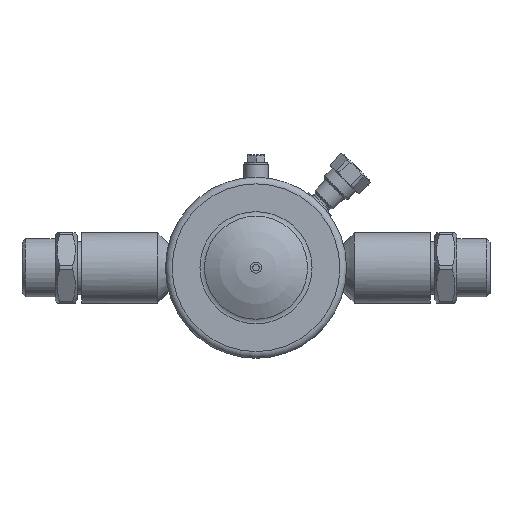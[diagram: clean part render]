
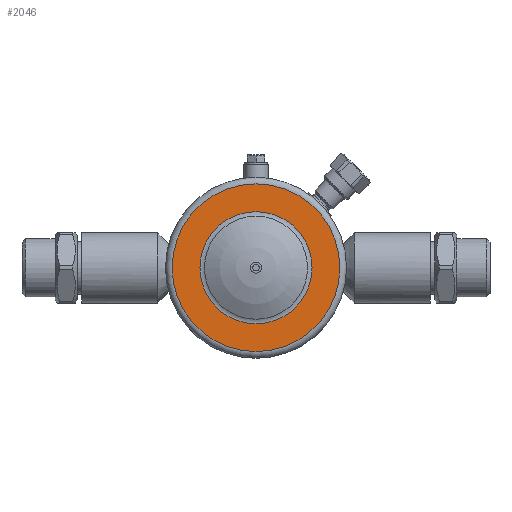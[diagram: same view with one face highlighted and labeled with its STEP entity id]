
A CAD part, top view. The second image highlights one B-rep face of the part: STEP entity #2046.
In plain terms, the highlighted planar face has unit normal (0, 0, 1) as drawn and (1, 0, 0) by its records, which use the part's own axes.
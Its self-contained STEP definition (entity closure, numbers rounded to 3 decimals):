
#2046=ADVANCED_FACE('',(#4076,#4078),#4080,.T.);
#4076=FACE_BOUND('',#4077,.T.);
#4077=EDGE_LOOP('',(#5403,#5404));
#4078=FACE_BOUND('',#4079,.T.);
#4079=EDGE_LOOP('',(#5405,#5406));
#4080=PLANE('',#4081);
#4081=AXIS2_PLACEMENT_3D('',#4082,#4083,#4084);
#4082=CARTESIAN_POINT('',(8.,0.,0.));
#4083=DIRECTION('',(1.,0.,0.));
#4084=DIRECTION('',(0.,0.,1.));
#5403=ORIENTED_EDGE('',*,*,#6063,.F.);
#5404=ORIENTED_EDGE('',*,*,#6062,.F.);
#5405=ORIENTED_EDGE('',*,*,#6066,.T.);
#5406=ORIENTED_EDGE('',*,*,#6067,.T.);
#6062=EDGE_CURVE('',#6657,#6658,#6659,.T.);
#6063=EDGE_CURVE('',#6658,#6657,#6660,.T.);
#6066=EDGE_CURVE('',#6665,#6666,#6667,.T.);
#6067=EDGE_CURVE('',#6666,#6665,#6668,.T.);
#6657=VERTEX_POINT('',#8908);
#6658=VERTEX_POINT('',#8909);
#6659=CIRCLE('',#8910,38.);
#6660=CIRCLE('',#8914,38.);
#6665=VERTEX_POINT('',#8928);
#6666=VERTEX_POINT('',#8929);
#6667=CIRCLE('',#8930,25.405);
#6668=CIRCLE('',#8934,25.405);
#8908=CARTESIAN_POINT('',(8.,0.,38.));
#8909=CARTESIAN_POINT('',(8.,0.,-38.));
#8910=AXIS2_PLACEMENT_3D('',#8911,#8912,#8913);
#8911=CARTESIAN_POINT('',(8.,0.,0.));
#8912=DIRECTION('',(-1.,0.,0.));
#8913=DIRECTION('',(0.,0.,1.));
#8914=AXIS2_PLACEMENT_3D('',#8915,#8916,#8917);
#8915=CARTESIAN_POINT('',(8.,0.,0.));
#8916=DIRECTION('',(-1.,0.,0.));
#8917=DIRECTION('',(0.,0.,-1.));
#8928=CARTESIAN_POINT('',(8.,0.,25.405));
#8929=CARTESIAN_POINT('',(8.,0.,-25.405));
#8930=AXIS2_PLACEMENT_3D('',#8931,#8932,#8933);
#8931=CARTESIAN_POINT('',(8.,0.,0.));
#8932=DIRECTION('',(-1.,0.,0.));
#8933=DIRECTION('',(0.,0.,1.));
#8934=AXIS2_PLACEMENT_3D('',#8935,#8936,#8937);
#8935=CARTESIAN_POINT('',(8.,0.,0.));
#8936=DIRECTION('',(-1.,0.,0.));
#8937=DIRECTION('',(0.,0.,-1.));
